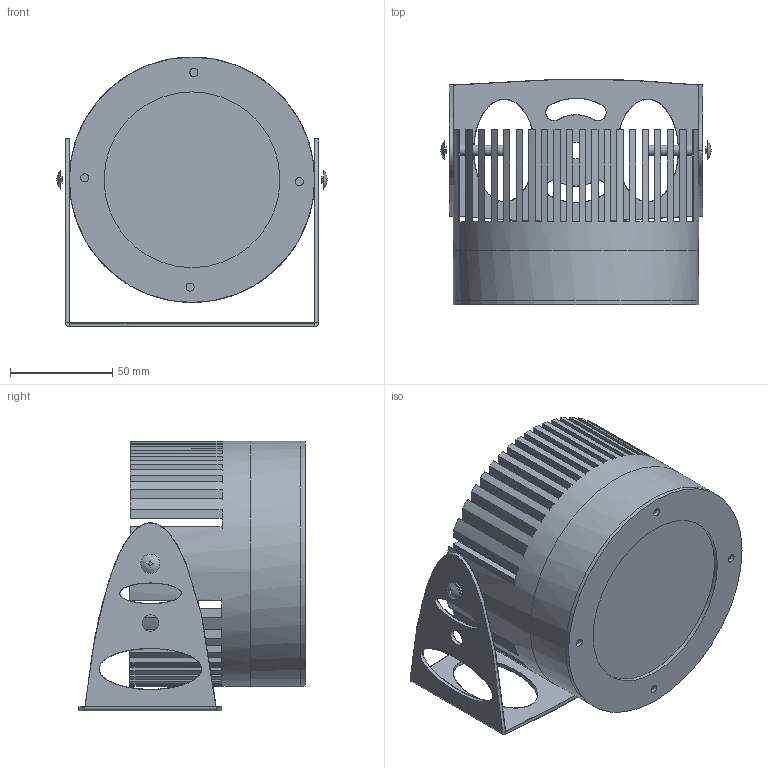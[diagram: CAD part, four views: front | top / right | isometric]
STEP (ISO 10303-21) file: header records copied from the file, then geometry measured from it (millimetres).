
FILE_DESCRIPTION(/* description */ (''),/* implementation_level */ '2;1');
FILE_NAME(/* name */ 'C:/Users/elena/Desktop/Palomino.step',/* time_stamp */ '2020-06-22T12:00:46+02:00',/* author */ (''),/* organization */ (''),/* preprocessor_version */ 'ST-DEVELOPER v18.1',/* originating_system */ 'Autodesk Translation Framework v9.3.0.1241',/* authorisation */ '');
FILE_SCHEMA (('AUTOMOTIVE_DESIGN { 1 0 10303 214 3 1 1 }'));
Length unit declared in the file: millimetre
Products named in the file (1): (Unsaved)
Bounding box: 132.08 x 110.55 x 131.97 mm (x, y, z)
Volume: 548063.4 mm3; surface area: 315492.7 mm2
Topology: 6 solids, 8 shells, 362 faces, 961 edges, 628 vertices
Faces by surface type: plane 299, cylinder 33, bspline 28, cone 2
Full cylindrical faces by diameter (mm): 4 x8, 5.09 x2, 8 x7, 8.2 x5, 86 x2, 114.943 x1, 117.5 x1, 118 x2, 120 x3
Entity records: 14999 total; most frequent: CARTESIAN_POINT 5838, ORIENTED_EDGE 1922, DIRECTION 1754, EDGE_CURVE 961, LINE 734, VECTOR 734, VERTEX_POINT 628, AXIS2_PLACEMENT_3D 510
